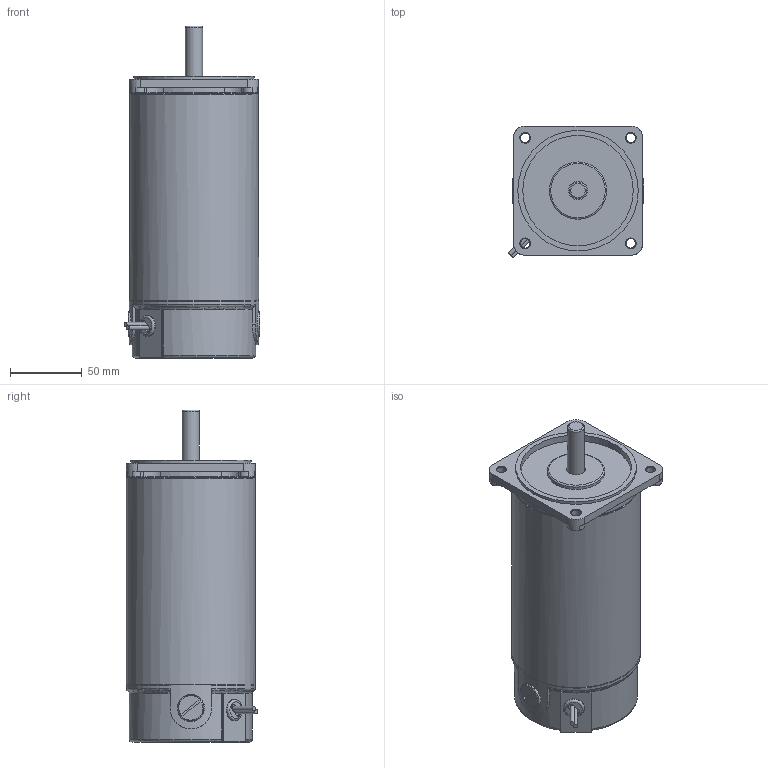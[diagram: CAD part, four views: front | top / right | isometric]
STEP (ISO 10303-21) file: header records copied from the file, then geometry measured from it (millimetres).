
FILE_DESCRIPTION((''),'2;1');
FILE_NAME('\\192.168.5.4\오메가연구소\DC CAD\02 - DC MOTOR 설계 - CAD FILE\DC MOTOR 3D 도면\표준 3D 파일\90각\300W\S9D300-ㅁS.stp','2014-06-17T08:31:57',('ycw1227'),(''),'Autodesk Inventor 2011','Autodesk Inventor 2011','');
FILE_SCHEMA(('AUTOMOTIVE_DESIGN { 1 0 10303 214 1 1 1 1 }'));
Length unit declared in the file: millimetre
Products named in the file (1): 부품36
Bounding box: 94.79 x 91.63 x 231.5 mm (x, y, z)
Volume: 1228733.4 mm3; surface area: 78071.8 mm2
Topology: 2 solids, 4 shells, 184 faces, 423 edges, 260 vertices
Faces by surface type: plane 73, cylinder 64, torus 31, cone 13, sphere 2, bspline 1
Full cylindrical faces by diameter (mm): 3 x2, 5 x3, 6.5 x4, 12 x1, 13 x1, 14.63 x1, 14.65 x1, 18 x2, 19 x2, 40 x1, 77 x1, 84 x1, 90 x2
Entity records: 5505 total; most frequent: CARTESIAN_POINT 1283, DIRECTION 930, ORIENTED_EDGE 768, AXIS2_PLACEMENT_3D 392, EDGE_CURVE 384, VERTEX_POINT 255, EDGE_LOOP 240, CIRCLE 208
